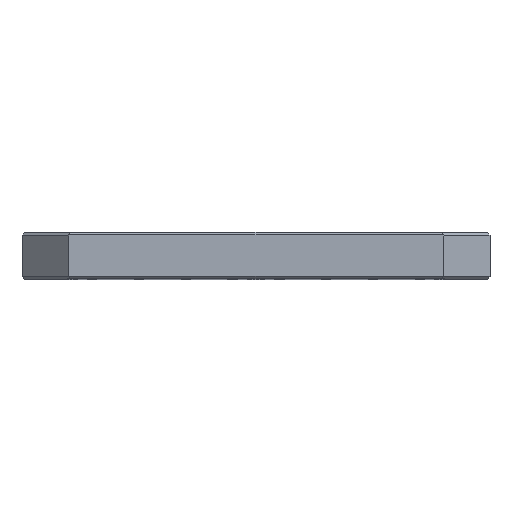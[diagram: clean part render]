
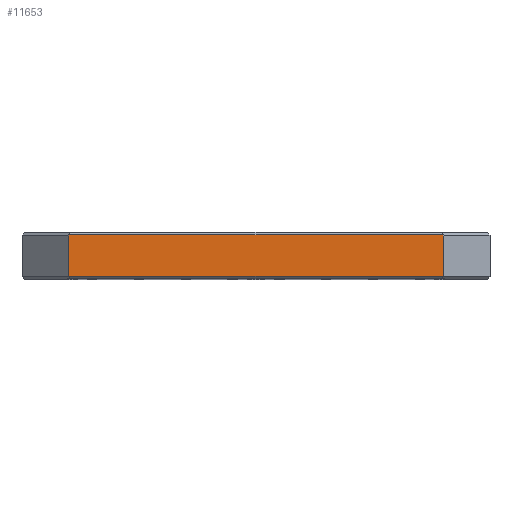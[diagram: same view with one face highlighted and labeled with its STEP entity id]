
A CAD part, top view. The second image highlights one B-rep face of the part: STEP entity #11653.
In plain terms, the highlighted planar face has unit normal (0, 0, 1).
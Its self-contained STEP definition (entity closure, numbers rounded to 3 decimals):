
#3531=DIRECTION('',(1.,0.,0.));
#3532=VECTOR('',#3531,400.);
#3533=CARTESIAN_POINT('',(-200.,22.,250.));
#3534=LINE('',#3533,#3532);
#3535=DIRECTION('',(0.,-1.,0.));
#3536=VECTOR('',#3535,44.);
#3537=CARTESIAN_POINT('',(200.,22.,250.));
#3538=LINE('',#3537,#3536);
#3539=DIRECTION('',(-1.,0.,0.));
#3540=VECTOR('',#3539,400.);
#3541=CARTESIAN_POINT('',(200.,-22.,250.));
#3542=LINE('',#3541,#3540);
#3543=DIRECTION('',(0.,-1.,0.));
#3544=VECTOR('',#3543,44.);
#3545=CARTESIAN_POINT('',(-200.,22.,250.));
#3546=LINE('',#3545,#3544);
#7015=CARTESIAN_POINT('',(-200.,22.,250.));
#7016=VERTEX_POINT('',#7015);
#7017=CARTESIAN_POINT('',(200.,22.,250.));
#7018=VERTEX_POINT('',#7017);
#7030=CARTESIAN_POINT('',(200.,-22.,250.));
#7032=VERTEX_POINT('',#7030);
#7033=CARTESIAN_POINT('',(-200.,-22.,250.));
#7034=VERTEX_POINT('',#7033);
#11640=CARTESIAN_POINT('',(-250.,-25.,250.));
#11641=DIRECTION('',(0.,0.,1.));
#11642=DIRECTION('',(1.,0.,0.));
#11643=AXIS2_PLACEMENT_3D('',#11640,#11641,#11642);
#11644=PLANE('',#11643);
#11646=ORIENTED_EDGE('',*,*,#11645,.T.);
#11647=ORIENTED_EDGE('',*,*,#11608,.T.);
#11648=ORIENTED_EDGE('',*,*,#11631,.T.);
#11650=ORIENTED_EDGE('',*,*,#11649,.F.);
#11651=EDGE_LOOP('',(#11646,#11647,#11648,#11650));
#11652=FACE_OUTER_BOUND('',#11651,.F.);
#11653=ADVANCED_FACE('',(#11652),#11644,.T.);
#11608=EDGE_CURVE('',#7018,#7032,#3538,.T.);
#11631=EDGE_CURVE('',#7032,#7034,#3542,.T.);
#11645=EDGE_CURVE('',#7016,#7018,#3534,.T.);
#11649=EDGE_CURVE('',#7016,#7034,#3546,.T.);
